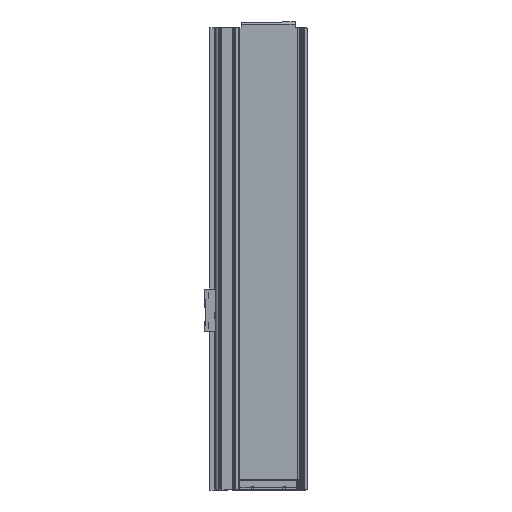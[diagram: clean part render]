
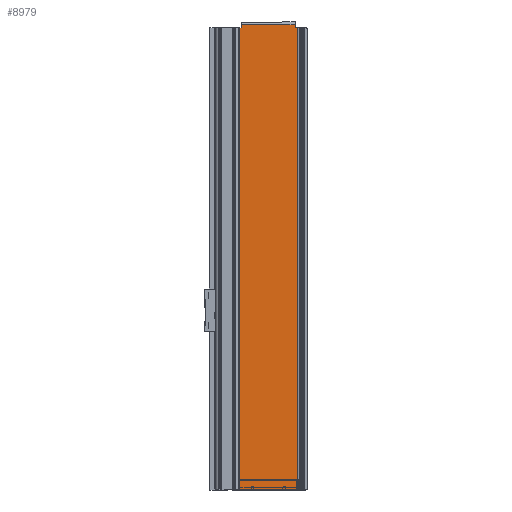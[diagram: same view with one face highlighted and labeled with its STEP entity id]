
A CAD part, left-side view. The second image highlights one B-rep face of the part: STEP entity #8979.
In plain terms, the highlighted planar face has unit normal (-1, 0, 0) as drawn and (1, 0, 0) by its records, which use the part's own axes.
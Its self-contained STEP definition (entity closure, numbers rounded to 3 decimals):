
#267=PLANE('',#9782);
#738=LINE('',#14483,#1466);
#743=LINE('',#14498,#1471);
#748=LINE('',#14507,#1476);
#749=LINE('',#14510,#1477);
#786=LINE('',#14635,#1514);
#804=LINE('',#14683,#1532);
#805=LINE('',#14686,#1533);
#806=LINE('',#14687,#1534);
#1466=VECTOR('',#11616,10.);
#1471=VECTOR('',#11631,10.);
#1476=VECTOR('',#11638,10.);
#1477=VECTOR('',#11641,10.);
#1514=VECTOR('',#11748,10.);
#1532=VECTOR('',#11802,10.);
#1533=VECTOR('',#11805,10.);
#1534=VECTOR('',#11806,10.);
#2195=FACE_OUTER_BOUND('',#2745,.T.);
#2745=EDGE_LOOP('',(#7028,#7029,#7030,#7031,#7032,#7033,#7034,#7035));
#3902=VERTEX_POINT('',#14479);
#3903=VERTEX_POINT('',#14481);
#3908=VERTEX_POINT('',#14497);
#3911=VERTEX_POINT('',#14505);
#3912=VERTEX_POINT('',#14509);
#3965=VERTEX_POINT('',#14633);
#3977=VERTEX_POINT('',#14681);
#3978=VERTEX_POINT('',#14685);
#4955=EDGE_CURVE('',#3902,#3903,#738,.T.);
#4962=EDGE_CURVE('',#3908,#3902,#743,.T.);
#4967=EDGE_CURVE('',#3903,#3911,#748,.T.);
#4968=EDGE_CURVE('',#3912,#3908,#749,.T.);
#5031=EDGE_CURVE('',#3911,#3965,#786,.T.);
#5055=EDGE_CURVE('',#3977,#3965,#804,.T.);
#5056=EDGE_CURVE('',#3978,#3977,#805,.T.);
#5057=EDGE_CURVE('',#3978,#3912,#806,.T.);
#7028=ORIENTED_EDGE('',*,*,#5056,.F.);
#7029=ORIENTED_EDGE('',*,*,#5057,.T.);
#7030=ORIENTED_EDGE('',*,*,#4968,.T.);
#7031=ORIENTED_EDGE('',*,*,#4962,.T.);
#7032=ORIENTED_EDGE('',*,*,#4955,.T.);
#7033=ORIENTED_EDGE('',*,*,#4967,.T.);
#7034=ORIENTED_EDGE('',*,*,#5031,.T.);
#7035=ORIENTED_EDGE('',*,*,#5055,.F.);
#8979=ADVANCED_FACE('',(#2195),#267,.F.);
#9782=AXIS2_PLACEMENT_3D('',#14684,#11803,#11804);
#11616=DIRECTION('',(0.,-1.,0.));
#11631=DIRECTION('',(0.,0.,1.));
#11638=DIRECTION('',(0.,0.,-1.));
#11641=DIRECTION('',(0.,-1.,0.));
#11748=DIRECTION('',(0.,-1.,0.));
#11802=DIRECTION('',(0.,0.,1.));
#11803=DIRECTION('center_axis',(-1.,0.,0.));
#11804=DIRECTION('ref_axis',(0.,-1.,0.));
#11805=DIRECTION('',(0.,-1.,0.));
#11806=DIRECTION('',(0.,0.,1.));
#14479=CARTESIAN_POINT('',(4.9,73.,395.6));
#14481=CARTESIAN_POINT('',(4.9,27.5,395.6));
#14483=CARTESIAN_POINT('',(4.9,73.,395.6));
#14497=CARTESIAN_POINT('',(4.9,73.,393.));
#14498=CARTESIAN_POINT('',(4.9,73.,393.));
#14505=CARTESIAN_POINT('',(4.9,27.5,393.));
#14507=CARTESIAN_POINT('',(4.9,27.5,393.));
#14509=CARTESIAN_POINT('',(4.9,75.342,393.));
#14510=CARTESIAN_POINT('',(4.9,75.342,393.));
#14633=CARTESIAN_POINT('',(4.9,25.9,393.));
#14635=CARTESIAN_POINT('',(4.9,75.342,393.));
#14681=CARTESIAN_POINT('',(4.9,25.9,0.));
#14683=CARTESIAN_POINT('',(4.9,25.9,0.));
#14684=CARTESIAN_POINT('Origin',(4.9,75.342,0.));
#14685=CARTESIAN_POINT('',(4.9,75.342,0.));
#14686=CARTESIAN_POINT('',(4.9,75.342,0.));
#14687=CARTESIAN_POINT('',(4.9,75.342,0.));
